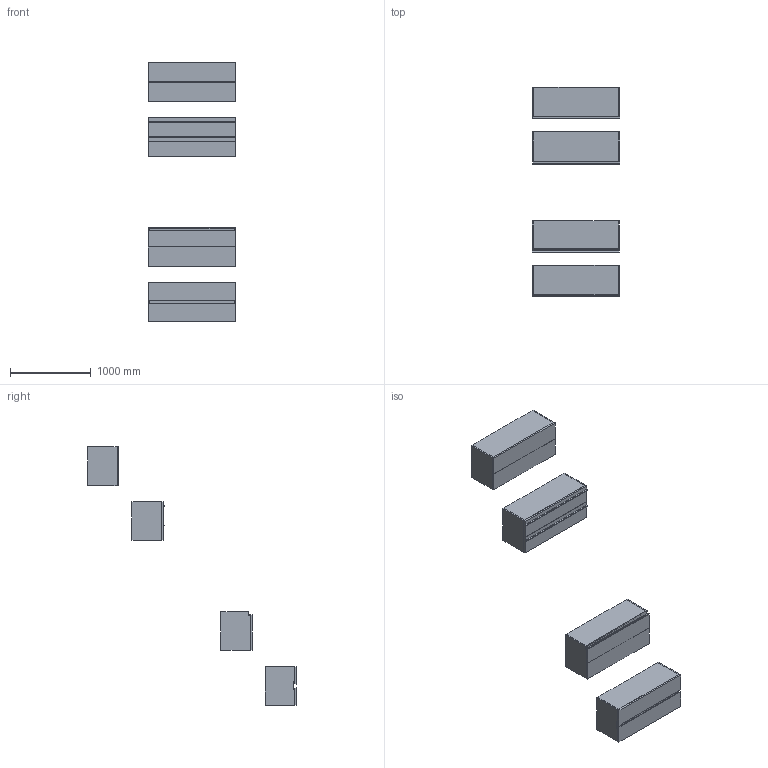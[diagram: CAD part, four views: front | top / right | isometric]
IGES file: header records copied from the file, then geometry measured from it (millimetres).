
Start section: Data from Parasolid IGES Translator 19.0.9, Copyright(c) 2006 Siemens PL M Software. All Rights Reserved.
Global section: file name: noorth-SI-H 48 D 38,8 W 108_8450.igs; native system: By Siemens PLM Incorporated; preprocessor: XPlus GENERIC/IGES 19.0.9; author: Noname; organization: Noname; date: 20200601.103033; units: metre
Bounding box: 1083.67 x 2585.1 x 3199.21 mm (x, y, z)
Volume: 115482833.5 mm3; surface area: 18143808.1 mm2
Topology: 33 solids, 33 shells, 318 faces, 700 edges, 428 vertices
Faces by surface type: plane 230, extrusion 36, bspline 32, cylinder 20
